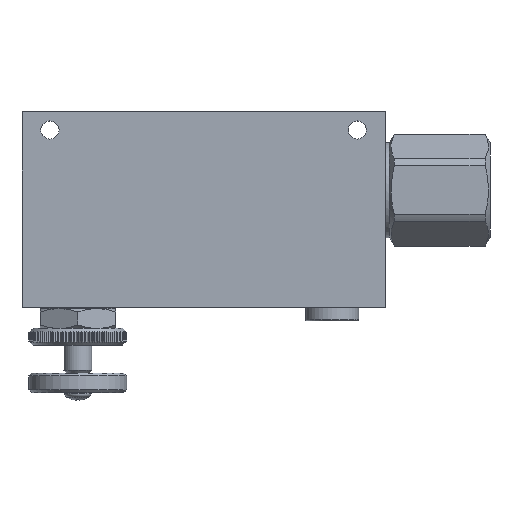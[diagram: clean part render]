
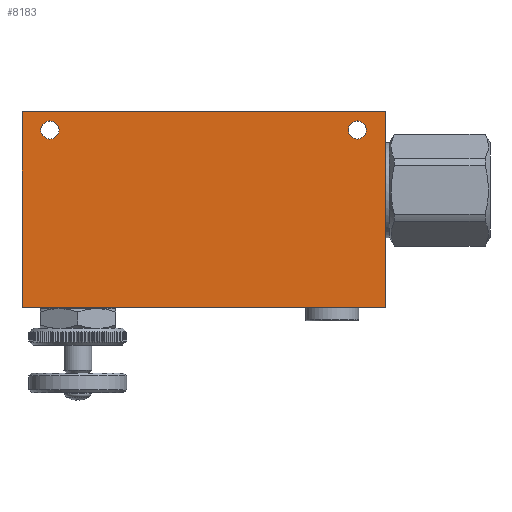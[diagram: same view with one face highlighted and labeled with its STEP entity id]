
A CAD part, top view. The second image highlights one B-rep face of the part: STEP entity #8183.
In plain terms, the highlighted planar face has unit normal (0, 0, 1).
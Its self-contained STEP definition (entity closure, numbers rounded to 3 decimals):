
#598=LINE('',#11282,#936);
#599=LINE('',#11284,#937);
#600=LINE('',#11286,#938);
#601=LINE('',#11287,#939);
#936=VECTOR('',#9431,70.);
#937=VECTOR('',#9432,130.);
#938=VECTOR('',#9433,70.);
#939=VECTOR('',#9434,130.);
#1275=FACE_BOUND('',#2153,.T.);
#1276=FACE_BOUND('',#2154,.T.);
#1653=FACE_OUTER_BOUND('',#2152,.T.);
#2152=EDGE_LOOP('',(#5058,#5059,#5060,#5061));
#2153=EDGE_LOOP('',(#5062));
#2154=EDGE_LOOP('',(#5063));
#2850=CIRCLE('',#8686,3.25);
#2851=CIRCLE('',#8687,3.25);
#3089=VERTEX_POINT('',#11280);
#3090=VERTEX_POINT('',#11281);
#3091=VERTEX_POINT('',#11283);
#3092=VERTEX_POINT('',#11285);
#3093=VERTEX_POINT('',#11288);
#3094=VERTEX_POINT('',#11290);
#3903=EDGE_CURVE('',#3089,#3090,#598,.T.);
#3904=EDGE_CURVE('',#3091,#3089,#599,.T.);
#3905=EDGE_CURVE('',#3092,#3091,#600,.T.);
#3906=EDGE_CURVE('',#3090,#3092,#601,.T.);
#3907=EDGE_CURVE('',#3093,#3093,#2850,.T.);
#3908=EDGE_CURVE('',#3094,#3094,#2851,.T.);
#5058=ORIENTED_EDGE('',*,*,#3903,.F.);
#5059=ORIENTED_EDGE('',*,*,#3904,.F.);
#5060=ORIENTED_EDGE('',*,*,#3905,.F.);
#5061=ORIENTED_EDGE('',*,*,#3906,.F.);
#5062=ORIENTED_EDGE('',*,*,#3907,.T.);
#5063=ORIENTED_EDGE('',*,*,#3908,.T.);
#7364=PLANE('',#8685);
#8183=ADVANCED_FACE('',(#1653,#1275,#1276),#7364,.T.);
#8685=AXIS2_PLACEMENT_3D('',#11279,#9429,#9430);
#8686=AXIS2_PLACEMENT_3D('',#11289,#9435,#9436);
#8687=AXIS2_PLACEMENT_3D('',#11291,#9437,#9438);
#9429=DIRECTION('center_axis',(0.,0.,1.));
#9430=DIRECTION('ref_axis',(1.,0.,0.));
#9431=DIRECTION('',(0.,1.,0.));
#9432=DIRECTION('',(-1.,0.,0.));
#9433=DIRECTION('',(0.,-1.,0.));
#9434=DIRECTION('',(1.,0.,0.));
#9435=DIRECTION('center_axis',(0.,0.,-1.));
#9436=DIRECTION('ref_axis',(1.,0.,0.));
#9437=DIRECTION('center_axis',(0.,0.,-1.));
#9438=DIRECTION('ref_axis',(1.,0.,0.));
#11279=CARTESIAN_POINT('Origin',(65.,35.,40.));
#11280=CARTESIAN_POINT('',(0.,0.,40.));
#11281=CARTESIAN_POINT('',(0.,70.,40.));
#11282=CARTESIAN_POINT('',(0.,70.,40.));
#11283=CARTESIAN_POINT('',(130.,0.,40.));
#11284=CARTESIAN_POINT('',(0.,0.,40.));
#11285=CARTESIAN_POINT('',(130.,70.,40.));
#11286=CARTESIAN_POINT('',(130.,0.,40.));
#11287=CARTESIAN_POINT('',(130.,70.,40.));
#11288=CARTESIAN_POINT('',(123.25,63.5,40.));
#11289=CARTESIAN_POINT('Origin',(120.,63.5,40.));
#11290=CARTESIAN_POINT('',(13.25,63.5,40.));
#11291=CARTESIAN_POINT('Origin',(10.,63.5,40.));
